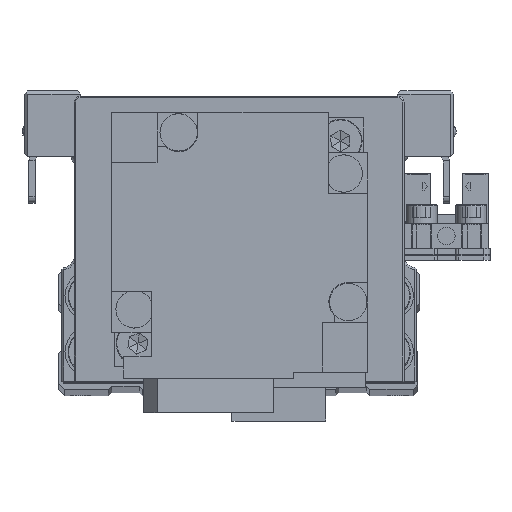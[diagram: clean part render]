
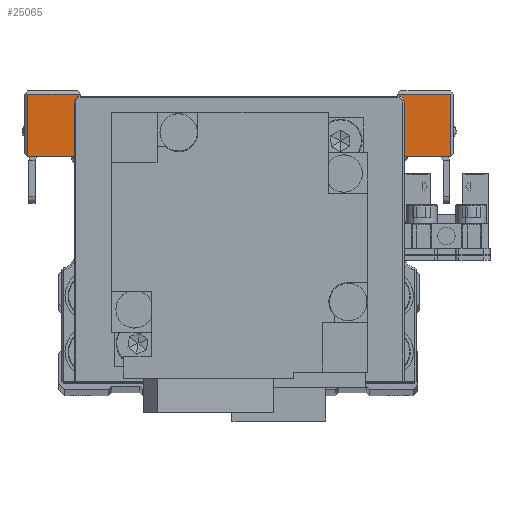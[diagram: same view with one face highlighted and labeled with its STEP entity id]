
A CAD part, top view. The second image highlights one B-rep face of the part: STEP entity #25065.
In plain terms, the highlighted planar face has unit normal (0, 0, 1) as drawn and (1, 0, 0) by its records, which use the part's own axes.
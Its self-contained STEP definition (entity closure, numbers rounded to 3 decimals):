
#37 = CARTESIAN_POINT ( 'NONE',  ( 25.5, 10.5, 25.5 ) ) ;
#638 = EDGE_CURVE ( 'NONE', #33144, #7299, #27030, .T. ) ;
#781 = DIRECTION ( 'NONE',  ( 0., 0., 1. ) ) ;
#1164 = VERTEX_POINT ( 'NONE', #16025 ) ;
#1545 = EDGE_CURVE ( 'NONE', #8797, #14560, #7653, .T. ) ;
#2364 = CARTESIAN_POINT ( 'NONE',  ( 25.5, -6., 16.2 ) ) ;
#2438 = DIRECTION ( 'NONE',  ( 0., 1., 0. ) ) ;
#2715 = VERTEX_POINT ( 'NONE', #31311 ) ;
#3341 = DIRECTION ( 'NONE',  ( 0., 1., 0. ) ) ;
#3480 = PLANE ( 'NONE',  #26980 ) ;
#3489 = LINE ( 'NONE', #14482, #11071 ) ;
#3670 = LINE ( 'NONE', #14660, #26880 ) ;
#3830 = CARTESIAN_POINT ( 'NONE',  ( 25.5, 10.5, -25.5 ) ) ;
#4084 = VECTOR ( 'NONE', #20116, 1000. ) ;
#4129 = CARTESIAN_POINT ( 'NONE',  ( 25.5, 15., -25.5 ) ) ;
#4559 = CARTESIAN_POINT ( 'NONE',  ( 25.5, 5., -34.5 ) ) ;
#5026 = LINE ( 'NONE', #16009, #15749 ) ;
#5242 = LINE ( 'NONE', #16229, #9483 ) ;
#6101 = VECTOR ( 'NONE', #3341, 1000. ) ;
#6170 = CARTESIAN_POINT ( 'NONE',  ( 25.5, 15., -25.5 ) ) ;
#6929 = ORIENTED_EDGE ( 'NONE', *, *, #30494, .T. ) ;
#7299 = VERTEX_POINT ( 'NONE', #29476 ) ;
#7314 = VERTEX_POINT ( 'NONE', #15814 ) ;
#7629 = VERTEX_POINT ( 'NONE', #34353 ) ;
#7653 = LINE ( 'NONE', #18632, #29758 ) ;
#7695 = DIRECTION ( 'NONE',  ( 0., 0., 1. ) ) ;
#7766 = EDGE_CURVE ( 'NONE', #12066, #7314, #16122, .T. ) ;
#7773 = VECTOR ( 'NONE', #15547, 1000. ) ;
#8797 = VERTEX_POINT ( 'NONE', #17231 ) ;
#9144 = CARTESIAN_POINT ( 'NONE',  ( 25.5, 15., 34. ) ) ;
#9483 = VECTOR ( 'NONE', #27205, 1000. ) ;
#9514 = VECTOR ( 'NONE', #17153, 1000. ) ;
#9926 = EDGE_CURVE ( 'NONE', #7314, #14961, #33815, .T. ) ;
#10819 = LINE ( 'NONE', #21789, #21171 ) ;
#10853 = EDGE_LOOP ( 'NONE', ( #18184, #23729, #30334, #13516, #35177, #29276, #29049, #6929, #34515, #30849, #14319, #22616, #30917, #16012 ) ) ;
#10991 = EDGE_CURVE ( 'NONE', #14961, #7629, #5026, .T. ) ;
#11071 = VECTOR ( 'NONE', #25454, 1000. ) ;
#11099 = VERTEX_POINT ( 'NONE', #32909 ) ;
#11257 = VECTOR ( 'NONE', #14820, 1000. ) ;
#11687 = VERTEX_POINT ( 'NONE', #28176 ) ;
#12023 = VECTOR ( 'NONE', #7695, 1000. ) ;
#12066 = VERTEX_POINT ( 'NONE', #37 ) ;
#12493 = EDGE_CURVE ( 'NONE', #13945, #33144, #5242, .T. ) ;
#13357 = DIRECTION ( 'NONE',  ( 0., -0.707, -0.707 ) ) ;
#13516 = ORIENTED_EDGE ( 'NONE', *, *, #31955, .T. ) ;
#13945 = VERTEX_POINT ( 'NONE', #28719 ) ;
#14319 = ORIENTED_EDGE ( 'NONE', *, *, #24096, .T. ) ;
#14474 = CARTESIAN_POINT ( 'NONE',  ( 25.5, 5., -16.5 ) ) ;
#14482 = CARTESIAN_POINT ( 'NONE',  ( 25.5, 5., -16.5 ) ) ;
#14560 = VERTEX_POINT ( 'NONE', #32741 ) ;
#14660 = CARTESIAN_POINT ( 'NONE',  ( 25.5, -6., -16.2 ) ) ;
#14820 = DIRECTION ( 'NONE',  ( 0., 0., -1. ) ) ;
#14961 = VERTEX_POINT ( 'NONE', #27125 ) ;
#15547 = DIRECTION ( 'NONE',  ( 0., 0., -1. ) ) ;
#15749 = VECTOR ( 'NONE', #26978, 1000. ) ;
#15814 = CARTESIAN_POINT ( 'NONE',  ( 25.5, 15., 25.5 ) ) ;
#16009 = CARTESIAN_POINT ( 'NONE',  ( 25.5, 5., 34. ) ) ;
#16012 = ORIENTED_EDGE ( 'NONE', *, *, #34240, .F. ) ;
#16025 = CARTESIAN_POINT ( 'NONE',  ( 25.5, -6., -16.2 ) ) ;
#16122 = LINE ( 'NONE', #27094, #21900 ) ;
#16229 = CARTESIAN_POINT ( 'NONE',  ( 25.5, 5., 16.5 ) ) ;
#16288 = VECTOR ( 'NONE', #13357, 1000. ) ;
#16934 = EDGE_CURVE ( 'NONE', #8797, #11099, #3489, .T. ) ;
#17026 = LINE ( 'NONE', #28005, #6101 ) ;
#17153 = DIRECTION ( 'NONE',  ( 0., 0., 1. ) ) ;
#17231 = CARTESIAN_POINT ( 'NONE',  ( 25.5, 5., -16.5 ) ) ;
#18184 = ORIENTED_EDGE ( 'NONE', *, *, #7766, .T. ) ;
#18632 = CARTESIAN_POINT ( 'NONE',  ( 25.5, 5., -34.5 ) ) ;
#20116 = DIRECTION ( 'NONE',  ( 0., 0., 1. ) ) ;
#20216 = VERTEX_POINT ( 'NONE', #4129 ) ;
#20253 = CARTESIAN_POINT ( 'NONE',  ( 25.5, -5.7, 16.5 ) ) ;
#20974 = EDGE_CURVE ( 'NONE', #11687, #20216, #30826, .T. ) ;
#21171 = VECTOR ( 'NONE', #32786, 1000. ) ;
#21357 = LINE ( 'NONE', #32353, #12023 ) ;
#21789 = CARTESIAN_POINT ( 'NONE',  ( 25.5, 5., -34. ) ) ;
#21900 = VECTOR ( 'NONE', #2438, 1000. ) ;
#21922 = EDGE_CURVE ( 'NONE', #2715, #20216, #17026, .T. ) ;
#22616 = ORIENTED_EDGE ( 'NONE', *, *, #20974, .T. ) ;
#23051 = EDGE_CURVE ( 'NONE', #1164, #7299, #21357, .T. ) ;
#23729 = ORIENTED_EDGE ( 'NONE', *, *, #9926, .T. ) ;
#24096 = EDGE_CURVE ( 'NONE', #14560, #11687, #10819, .T. ) ;
#25065 = ADVANCED_FACE ( 'NONE', ( #28144 ), #3480, .F. ) ;
#25448 = DIRECTION ( 'NONE',  ( -1., 0., 0. ) ) ;
#25454 = DIRECTION ( 'NONE',  ( 0., -1., 0. ) ) ;
#25634 = DIRECTION ( 'NONE',  ( 0., 0.707, -0.707 ) ) ;
#26880 = VECTOR ( 'NONE', #25634, 1000. ) ;
#26978 = DIRECTION ( 'NONE',  ( 0., -1., 0. ) ) ;
#26980 = AXIS2_PLACEMENT_3D ( 'NONE', #14474, #25448, #781 ) ;
#27030 = LINE ( 'NONE', #2364, #16288 ) ;
#27094 = CARTESIAN_POINT ( 'NONE',  ( 25.5, 10.5, 25.5 ) ) ;
#27125 = CARTESIAN_POINT ( 'NONE',  ( 25.5, 15., 34. ) ) ;
#27205 = DIRECTION ( 'NONE',  ( 0., -1., 0. ) ) ;
#28005 = CARTESIAN_POINT ( 'NONE',  ( 25.5, 10.5, -25.5 ) ) ;
#28144 = FACE_OUTER_BOUND ( 'NONE', #10853, .T. ) ;
#28176 = CARTESIAN_POINT ( 'NONE',  ( 25.5, 15., -34. ) ) ;
#28480 = LINE ( 'NONE', #3830, #11257 ) ;
#28719 = CARTESIAN_POINT ( 'NONE',  ( 25.5, 5., 16.5 ) ) ;
#29049 = ORIENTED_EDGE ( 'NONE', *, *, #23051, .F. ) ;
#29217 = LINE ( 'NONE', #4559, #7773 ) ;
#29276 = ORIENTED_EDGE ( 'NONE', *, *, #638, .T. ) ;
#29476 = CARTESIAN_POINT ( 'NONE',  ( 25.5, -6., 16.2 ) ) ;
#29601 = DIRECTION ( 'NONE',  ( 0., 0., -1. ) ) ;
#29758 = VECTOR ( 'NONE', #29601, 1000. ) ;
#30334 = ORIENTED_EDGE ( 'NONE', *, *, #10991, .T. ) ;
#30494 = EDGE_CURVE ( 'NONE', #1164, #11099, #3670, .T. ) ;
#30826 = LINE ( 'NONE', #6170, #9514 ) ;
#30849 = ORIENTED_EDGE ( 'NONE', *, *, #1545, .T. ) ;
#30917 = ORIENTED_EDGE ( 'NONE', *, *, #21922, .F. ) ;
#31311 = CARTESIAN_POINT ( 'NONE',  ( 25.5, 10.5, -25.5 ) ) ;
#31955 = EDGE_CURVE ( 'NONE', #7629, #13945, #29217, .T. ) ;
#32353 = CARTESIAN_POINT ( 'NONE',  ( 25.5, -6., 16.5 ) ) ;
#32741 = CARTESIAN_POINT ( 'NONE',  ( 25.5, 5., -34. ) ) ;
#32786 = DIRECTION ( 'NONE',  ( 0., 1., 0. ) ) ;
#32909 = CARTESIAN_POINT ( 'NONE',  ( 25.5, -5.7, -16.5 ) ) ;
#33144 = VERTEX_POINT ( 'NONE', #20253 ) ;
#33815 = LINE ( 'NONE', #9144, #4084 ) ;
#34240 = EDGE_CURVE ( 'NONE', #12066, #2715, #28480, .T. ) ;
#34353 = CARTESIAN_POINT ( 'NONE',  ( 25.5, 5., 34. ) ) ;
#34515 = ORIENTED_EDGE ( 'NONE', *, *, #16934, .F. ) ;
#35177 = ORIENTED_EDGE ( 'NONE', *, *, #12493, .T. ) ;
